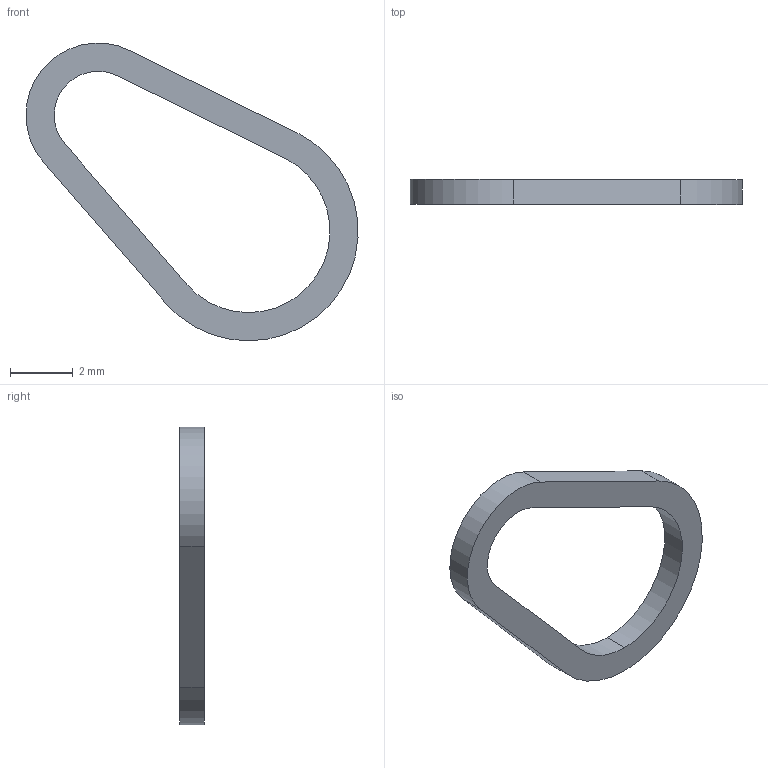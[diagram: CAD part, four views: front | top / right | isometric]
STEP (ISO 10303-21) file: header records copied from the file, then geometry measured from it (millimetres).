
FILE_DESCRIPTION (( 'STEP AP214' ), '1' );
FILE_NAME ('010802_LnG_seal_check_valve_rA.STEP', '2023-01-26T23:01:07', ( '' ), ( '' ), 'SwSTEP 2.0', 'SolidWorks 2019', '' );
FILE_SCHEMA (( 'AUTOMOTIVE_DESIGN' ));
Length unit declared in the file: millimetre
Products named in the file (1): 010802_LnG_seal_check_valve_rA
Bounding box: 10.59 x 0.79 x 9.5 mm (x, y, z)
Volume: 19.7 mm3; surface area: 93.8 mm2
Topology: 1 solids, 1 shells, 12 faces, 30 edges, 20 vertices
Faces by surface type: cylinder 6, plane 6
Entity records: 404 total; most frequent: DIRECTION 68, CARTESIAN_POINT 63, ORIENTED_EDGE 60, EDGE_CURVE 30, AXIS2_PLACEMENT_3D 25, VERTEX_POINT 20, LINE 18, VECTOR 18
